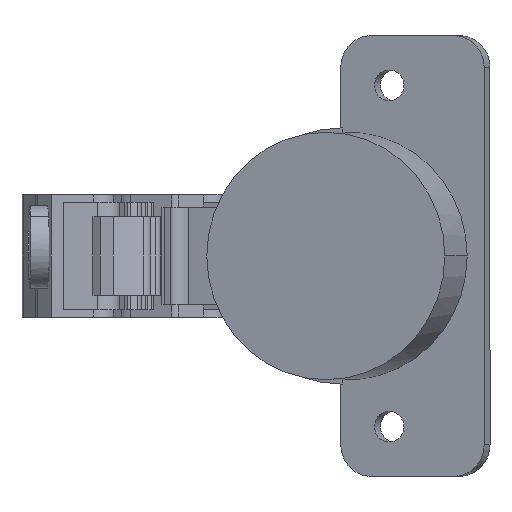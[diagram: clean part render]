
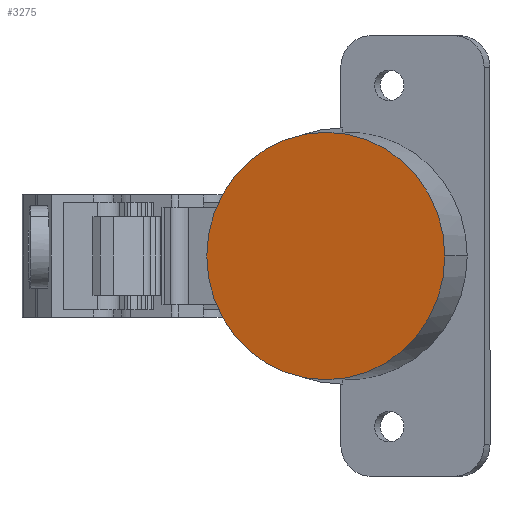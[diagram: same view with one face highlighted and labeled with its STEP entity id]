
A CAD part, left-side view. The second image highlights one B-rep face of the part: STEP entity #3275.
In plain terms, the highlighted planar face has unit normal (-0.962, 0.273, 0).
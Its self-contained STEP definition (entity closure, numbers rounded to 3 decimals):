
#14 = CARTESIAN_POINT ( 'NONE',  ( 34.042, -28.555, 0. ) ) ;
#43 = DIRECTION ( 'NONE',  ( -0.962, 0.273, 0. ) ) ;
#383 = DIRECTION ( 'NONE',  ( -0.273, -0.962, 0. ) ) ;
#498 = DIRECTION ( 'NONE',  ( -0.273, -0.962, 0. ) ) ;
#1123 = VERTEX_POINT ( 'NONE', #3227 ) ;
#1139 = CARTESIAN_POINT ( 'NONE',  ( 34.042, -28.555, 0. ) ) ;
#1497 = AXIS2_PLACEMENT_3D ( 'NONE', #14, #4011, #498 ) ;
#1602 = AXIS2_PLACEMENT_3D ( 'NONE', #1139, #2366, #383 ) ;
#2127 = ORIENTED_EDGE ( 'NONE', *, *, #2626, .T. ) ;
#2366 = DIRECTION ( 'NONE',  ( -0.962, 0.273, 0. ) ) ;
#2626 = EDGE_CURVE ( 'NONE', #3705, #1123, #3845, .T. ) ;
#2800 = CARTESIAN_POINT ( 'NONE',  ( 29.287, -45.293, 0. ) ) ;
#3074 = PLANE ( 'NONE',  #1602 ) ;
#3227 = CARTESIAN_POINT ( 'NONE',  ( 38.797, -11.817, 0. ) ) ;
#3275 = ADVANCED_FACE ( 'NONE', ( #4770 ), #3074, .T. ) ;
#3522 = CARTESIAN_POINT ( 'NONE',  ( 34.042, -28.555, 0. ) ) ;
#3705 = VERTEX_POINT ( 'NONE', #2800 ) ;
#3743 = CIRCLE ( 'NONE', #1497, 17.4 ) ;
#3845 = CIRCLE ( 'NONE', #4589, 17.4 ) ;
#4011 = DIRECTION ( 'NONE',  ( -0.962, 0.273, 0. ) ) ;
#4327 = DIRECTION ( 'NONE',  ( -0.273, -0.962, 0. ) ) ;
#4336 = EDGE_LOOP ( 'NONE', ( #2127, #4746 ) ) ;
#4589 = AXIS2_PLACEMENT_3D ( 'NONE', #3522, #43, #4327 ) ;
#4746 = ORIENTED_EDGE ( 'NONE', *, *, #5125, .T. ) ;
#4770 = FACE_OUTER_BOUND ( 'NONE', #4336, .T. ) ;
#5125 = EDGE_CURVE ( 'NONE', #1123, #3705, #3743, .T. ) ;
